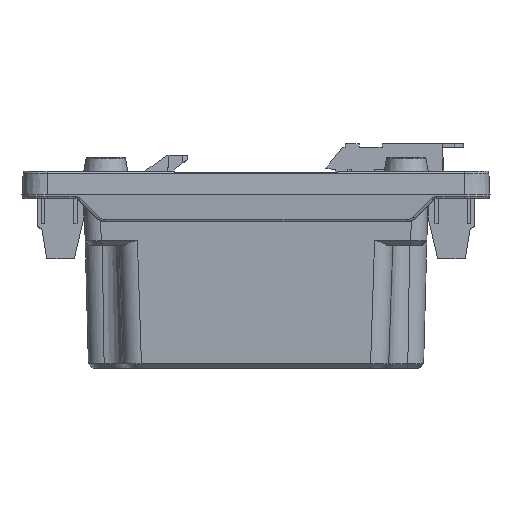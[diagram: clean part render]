
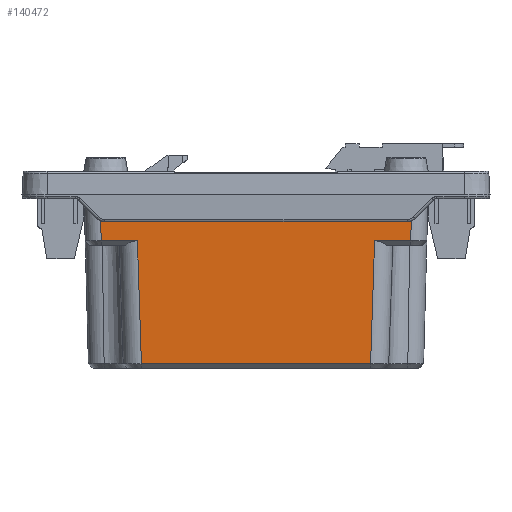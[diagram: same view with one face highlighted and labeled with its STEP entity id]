
A CAD part, left-side view. The second image highlights one B-rep face of the part: STEP entity #140472.
In plain terms, the highlighted planar face has unit normal (1, 0, 0.026).
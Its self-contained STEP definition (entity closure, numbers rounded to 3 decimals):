
#140326=CARTESIAN_POINT('',(-2.492,-31.486,
30.599));
#140327=CARTESIAN_POINT('',(-2.492,-31.42,
30.599));
#140328=CARTESIAN_POINT('',(-2.492,-31.296,
30.575));
#140329=CARTESIAN_POINT('',(-2.489,-31.122,
30.462));
#140330=CARTESIAN_POINT('',(-2.484,-31.01,
30.289));
#140331=CARTESIAN_POINT('',(-2.481,-30.986,
30.165));
#140332=CARTESIAN_POINT('',(-2.479,-30.986,
30.099));
#140334=DIRECTION('',(0.026,0.,-1.));
#140335=VECTOR('',#140334,1.4);
#140336=CARTESIAN_POINT('',(-2.479,-30.986,
30.099));
#140337=LINE('',#140336,#140335);
#140338=CARTESIAN_POINT('',(-2.443,-30.986,28.699));
#140339=CARTESIAN_POINT('',(-2.441,-30.986,
28.632));
#140340=CARTESIAN_POINT('',(-2.438,-30.962,
28.509));
#140341=CARTESIAN_POINT('',(-2.433,-30.85,
28.335));
#140342=CARTESIAN_POINT('',(-2.43,-30.676,
28.223));
#140343=CARTESIAN_POINT('',(-2.429,-30.553,
28.199));
#140344=CARTESIAN_POINT('',(-2.429,-30.486,28.199));
#140346=DIRECTION('',(0.,1.,0.));
#140347=VECTOR('',#140346,7.);
#140348=CARTESIAN_POINT('',(-2.429,-30.486,28.199));
#140349=LINE('',#140348,#140347);
#140350=CARTESIAN_POINT('',(-2.428,-23.486,28.199));
#140351=CARTESIAN_POINT('',(-2.428,-23.42,
28.199));
#140352=CARTESIAN_POINT('',(-2.429,-23.296,
28.223));
#140353=CARTESIAN_POINT('',(-2.432,-23.122,
28.335));
#140354=CARTESIAN_POINT('',(-2.437,-23.01,
28.509));
#140355=CARTESIAN_POINT('',(-2.44,-22.986,
28.633));
#140356=CARTESIAN_POINT('',(-2.441,-22.986,
28.699));
#140358=DIRECTION('',(-0.026,0.,1.));
#140359=VECTOR('',#140358,1.4);
#140360=CARTESIAN_POINT('',(-2.441,-22.986,
28.699));
#140361=LINE('',#140360,#140359);
#140362=CARTESIAN_POINT('',(-2.478,-22.986,
30.099));
#140363=CARTESIAN_POINT('',(-2.48,-22.986,
30.165));
#140364=CARTESIAN_POINT('',(-2.483,-22.962,
30.289));
#140365=CARTESIAN_POINT('',(-2.488,-22.85,
30.463));
#140366=CARTESIAN_POINT('',(-2.491,-22.676,
30.575));
#140367=CARTESIAN_POINT('',(-2.491,-22.553,
30.599));
#140368=CARTESIAN_POINT('',(-2.491,-22.486,
30.599));
#140370=DIRECTION('',(0.,1.,0.));
#140371=VECTOR('',#140370,29.494);
#140372=CARTESIAN_POINT('',(-2.491,-22.486,
30.599));
#140373=LINE('',#140372,#140371);
#140374=DIRECTION('',(0.026,-0.027,-0.999));
#140375=VECTOR('',#140374,9.707);
#140376=CARTESIAN_POINT('',(-2.487,7.008,
30.599));
#140377=LINE('',#140376,#140375);
#140378=DIRECTION('',(0.,-1.,0.));
#140379=VECTOR('',#140378,7.887);
#140380=CARTESIAN_POINT('',(-2.233,6.748,
20.899));
#140381=LINE('',#140380,#140379);
#140382=DIRECTION('',(0.026,-0.033,-0.999));
#140383=VECTOR('',#140382,26.824);
#140384=CARTESIAN_POINT('',(-2.234,-1.14,
20.899));
#140385=LINE('',#140384,#140383);
#140386=DIRECTION('',(0.,-1.,0.));
#140387=VECTOR('',#140386,49.955);
#140388=CARTESIAN_POINT('',(-1.533,-2.02,
-5.901));
#140389=LINE('',#140388,#140387);
#140390=DIRECTION('',(-0.026,-0.032,0.999));
#140391=VECTOR('',#140390,26.823);
#140392=CARTESIAN_POINT('',(-1.54,-51.975,
-5.901));
#140393=LINE('',#140392,#140391);
#140394=DIRECTION('',(0.,-1.,0.));
#140395=VECTOR('',#140394,7.881);
#140396=CARTESIAN_POINT('',(-2.241,-52.84,
20.899));
#140397=LINE('',#140396,#140395);
#140398=DIRECTION('',(-0.026,-0.027,0.999));
#140399=VECTOR('',#140398,9.707);
#140400=CARTESIAN_POINT('',(-2.243,-60.72,
20.899));
#140401=LINE('',#140400,#140399);
#140402=DIRECTION('',(0.,1.,0.));
#140403=VECTOR('',#140402,29.494);
#140404=CARTESIAN_POINT('',(-2.497,-60.981,
30.599));
#140405=LINE('',#140404,#140403);
#140406=VERTEX_POINT('',#140326);
#140407=VERTEX_POINT('',#140332);
#140408=CARTESIAN_POINT('',(-2.443,-30.986,28.699));
#140409=VERTEX_POINT('',#140408);
#140410=VERTEX_POINT('',#140344);
#140411=CARTESIAN_POINT('',(-2.428,-23.486,28.199));
#140412=VERTEX_POINT('',#140411);
#140413=VERTEX_POINT('',#140356);
#140414=CARTESIAN_POINT('',(-2.478,-22.986,
30.099));
#140415=VERTEX_POINT('',#140414);
#140416=VERTEX_POINT('',#140368);
#140417=CARTESIAN_POINT('',(-2.487,7.008,
30.599));
#140418=VERTEX_POINT('',#140417);
#140419=CARTESIAN_POINT('',(-2.233,6.748,
20.899));
#140420=VERTEX_POINT('',#140419);
#140421=CARTESIAN_POINT('',(-2.234,-1.14,
20.899));
#140422=VERTEX_POINT('',#140421);
#140423=CARTESIAN_POINT('',(-1.533,-2.02,
-5.901));
#140424=VERTEX_POINT('',#140423);
#140425=CARTESIAN_POINT('',(-1.54,-51.975,
-5.901));
#140426=VERTEX_POINT('',#140425);
#140427=CARTESIAN_POINT('',(-2.241,-52.84,
20.899));
#140428=VERTEX_POINT('',#140427);
#140429=CARTESIAN_POINT('',(-2.243,-60.72,
20.899));
#140430=VERTEX_POINT('',#140429);
#140431=CARTESIAN_POINT('',(-2.497,-60.981,
30.599));
#140432=VERTEX_POINT('',#140431);
#140433=CARTESIAN_POINT('',(-2.014,-26.986,
12.349));
#140434=DIRECTION('',(1.,0.,0.026));
#140435=DIRECTION('',(0.,-1.,0.));
#140436=AXIS2_PLACEMENT_3D('',#140433,#140434,#140435);
#140437=PLANE('',#140436);
#140439=ORIENTED_EDGE('',*,*,#140438,.T.);
#140441=ORIENTED_EDGE('',*,*,#140440,.T.);
#140443=ORIENTED_EDGE('',*,*,#140442,.T.);
#140445=ORIENTED_EDGE('',*,*,#140444,.T.);
#140447=ORIENTED_EDGE('',*,*,#140446,.T.);
#140449=ORIENTED_EDGE('',*,*,#140448,.T.);
#140451=ORIENTED_EDGE('',*,*,#140450,.T.);
#140453=ORIENTED_EDGE('',*,*,#140452,.T.);
#140455=ORIENTED_EDGE('',*,*,#140454,.T.);
#140457=ORIENTED_EDGE('',*,*,#140456,.T.);
#140459=ORIENTED_EDGE('',*,*,#140458,.T.);
#140461=ORIENTED_EDGE('',*,*,#140460,.T.);
#140463=ORIENTED_EDGE('',*,*,#140462,.T.);
#140465=ORIENTED_EDGE('',*,*,#140464,.T.);
#140467=ORIENTED_EDGE('',*,*,#140466,.T.);
#140469=ORIENTED_EDGE('',*,*,#140468,.T.);
#140470=EDGE_LOOP('',(#140439,#140441,#140443,#140445,#140447,#140449,#140451,
#140453,#140455,#140457,#140459,#140461,#140463,#140465,#140467,#140469));
#140471=FACE_OUTER_BOUND('',#140470,.F.);
#140333=B_SPLINE_CURVE_WITH_KNOTS('',3,(#140326,#140327,#140328,#140329,#140330,
#140331,#140332),.UNSPECIFIED.,.F.,.F.,(4,1,1,1,4),(0.,0.25,0.5,0.75,
1.),.UNSPECIFIED.);
#140345=B_SPLINE_CURVE_WITH_KNOTS('',3,(#140338,#140339,#140340,#140341,#140342,
#140343,#140344),.UNSPECIFIED.,.F.,.F.,(4,1,1,1,4),(0.,0.25,0.5,0.75,
1.),.UNSPECIFIED.);
#140357=B_SPLINE_CURVE_WITH_KNOTS('',3,(#140350,#140351,#140352,#140353,#140354,
#140355,#140356),.UNSPECIFIED.,.F.,.F.,(4,1,1,1,4),(0.,0.25,0.5,0.75,
1.),.UNSPECIFIED.);
#140369=B_SPLINE_CURVE_WITH_KNOTS('',3,(#140362,#140363,#140364,#140365,#140366,
#140367,#140368),.UNSPECIFIED.,.F.,.F.,(4,1,1,1,4),(0.,0.25,0.5,0.75,
1.),.UNSPECIFIED.);
#140438=EDGE_CURVE('',#140406,#140407,#140333,.T.);
#140440=EDGE_CURVE('',#140407,#140409,#140337,.T.);
#140442=EDGE_CURVE('',#140409,#140410,#140345,.T.);
#140444=EDGE_CURVE('',#140410,#140412,#140349,.T.);
#140446=EDGE_CURVE('',#140412,#140413,#140357,.T.);
#140448=EDGE_CURVE('',#140413,#140415,#140361,.T.);
#140450=EDGE_CURVE('',#140415,#140416,#140369,.T.);
#140452=EDGE_CURVE('',#140416,#140418,#140373,.T.);
#140454=EDGE_CURVE('',#140418,#140420,#140377,.T.);
#140456=EDGE_CURVE('',#140420,#140422,#140381,.T.);
#140458=EDGE_CURVE('',#140422,#140424,#140385,.T.);
#140460=EDGE_CURVE('',#140424,#140426,#140389,.T.);
#140462=EDGE_CURVE('',#140426,#140428,#140393,.T.);
#140464=EDGE_CURVE('',#140428,#140430,#140397,.T.);
#140466=EDGE_CURVE('',#140430,#140432,#140401,.T.);
#140468=EDGE_CURVE('',#140432,#140406,#140405,.T.);
#140472=ADVANCED_FACE('',(#140471),#140437,.T.);
